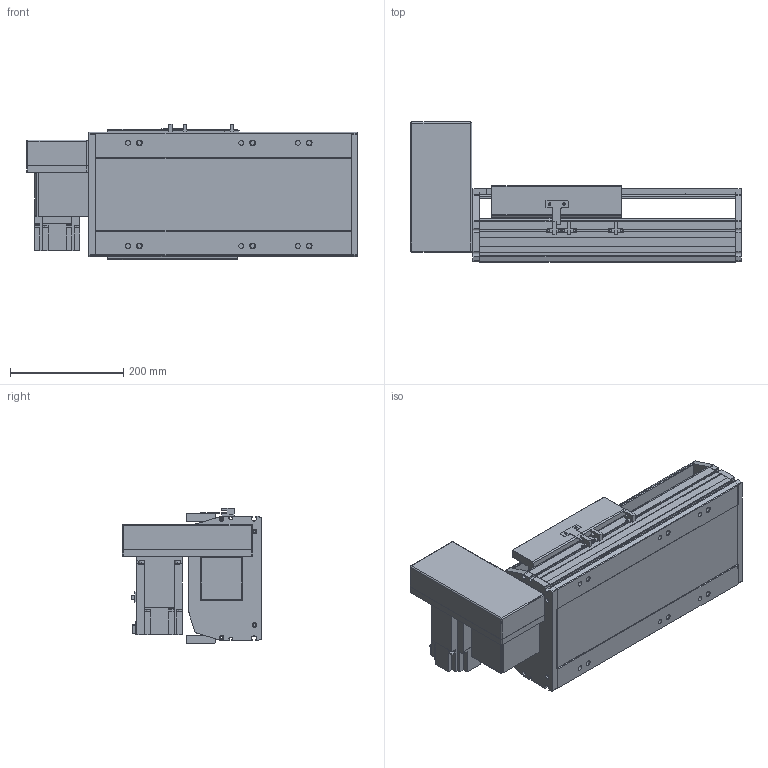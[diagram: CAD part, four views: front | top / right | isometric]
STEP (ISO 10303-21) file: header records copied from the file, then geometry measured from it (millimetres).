
FILE_DESCRIPTION(/* description */ ('STEP AP214'),/* implementation_level */ '2;1');
FILE_NAME(/* name */ 'PBS220-P40-S100-RU-T75-C1-N(0)',/* time_stamp */ '2022-06-13T02:49:31+02:00',/* author */ ('License CC BY-ND 4.0'),/* organization */ ('CADENAS'),/* preprocessor_version */ 'ST-DEVELOPER v18.102',/* originating_system */ 'PARTsolutions',/* authorisation */ ' ');
FILE_SCHEMA (('AUTOMOTIVE_DESIGN {1 0 10303 214 3 1 1}'));
Length unit declared in the file: millimetre
Products named in the file (7): PBS220-P40-S100-RU-T75-C1-N(0); PBS220_sensor; PBS220_plant; PBS220_sliser; T75-p1; PBS220T-RU_motors; PBS220-S100()_body
Assembly tree (8 placements, depth 2):
  PBS220-P40-S100-RU-T75-C1-N(0)
    PBS220_sensor  x3
    PBS220_plant
    PBS220_sliser
    T75-p1
    PBS220T-RU_motors
    PBS220-S100()_body
Bounding box: 584 x 247 x 238.5 mm (x, y, z)
Volume: 9335463.3 mm3; surface area: 1069235.5 mm2
Topology: 8 solids, 8 shells, 854 faces, 2256 edges, 1468 vertices
Faces by surface type: plane 578, cylinder 246, cone 30
Full cylindrical faces by diameter (mm): 2.013 x4, 4.5 x14, 4.917 x4, 6 x7, 6.647 x8, 8 x10, 8.376 x6, 8.5 x6, 10 x6, 14 x6, 38 x2, 40 x1, 70 x1
Entity records: 24069 total; most frequent: DIRECTION 4185, CARTESIAN_POINT 4162, ORIENTED_EDGE 3926, EDGE_CURVE 1963, AXIS2_PLACEMENT_3D 1425, VERTEX_POINT 1336, LINE 1335, VECTOR 1335
